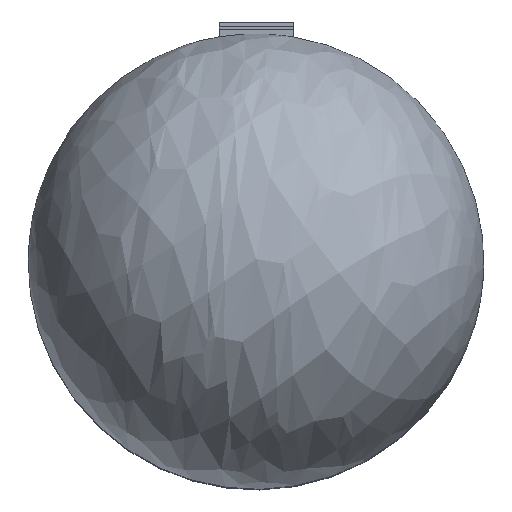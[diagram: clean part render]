
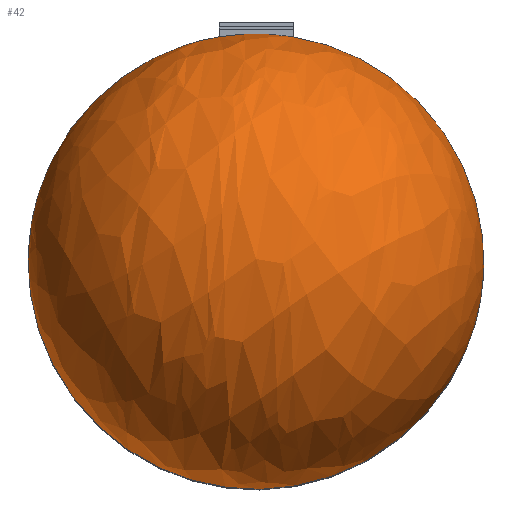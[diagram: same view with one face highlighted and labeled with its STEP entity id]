
A CAD part, top view. The second image highlights one B-rep face of the part: STEP entity #42.
In plain terms, the highlighted free-form (B-spline) face has degree [2, 2] with [5, 5] control points.
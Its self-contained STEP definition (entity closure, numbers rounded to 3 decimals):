
#42=ADVANCED_FACE('',(#70),#510,.T.);
#70=FACE_OUTER_BOUND('',#98,.T.);
#98=EDGE_LOOP('',(#233,#234,#235,#236));
#233=ORIENTED_EDGE('',*,*,#354,.T.);
#234=ORIENTED_EDGE('',*,*,#342,.F.);
#235=ORIENTED_EDGE('',*,*,#274,.F.);
#236=ORIENTED_EDGE('',*,*,#338,.F.);
#274=EDGE_CURVE('',#458,#457,#391,.T.);
#338=EDGE_CURVE('',#507,#458,#375,.T.);
#342=EDGE_CURVE('',#457,#508,#376,.T.);
#354=EDGE_CURVE('',#507,#508,#386,.T.);
#375=(
BOUNDED_CURVE()
B_SPLINE_CURVE(2,(#1070,#1071,#1072),.UNSPECIFIED.,.F.,.F.)
B_SPLINE_CURVE_WITH_KNOTS((3,3),(-120.554,-25.112),
 .UNSPECIFIED.)
CURVE()
GEOMETRIC_REPRESENTATION_ITEM()
RATIONAL_B_SPLINE_CURVE((1.,0.813,1.))
REPRESENTATION_ITEM('')
);
#376=(
BOUNDED_CURVE()
B_SPLINE_CURVE(2,(#1091,#1092,#1093),.UNSPECIFIED.,.F.,.F.)
B_SPLINE_CURVE_WITH_KNOTS((3,3),(0.,120.554),.UNSPECIFIED.)
CURVE()
GEOMETRIC_REPRESENTATION_ITEM()
RATIONAL_B_SPLINE_CURVE((1.,0.707,1.))
REPRESENTATION_ITEM('')
);
#386=(
BOUNDED_CURVE()
B_SPLINE_CURVE(2,(#1172,#1173,#1174,#1175,#1176),.UNSPECIFIED.,.F.,.F.)
B_SPLINE_CURVE_WITH_KNOTS((3,2,3),(-120.554,0.,120.554),
 .UNSPECIFIED.)
CURVE()
GEOMETRIC_REPRESENTATION_ITEM()
RATIONAL_B_SPLINE_CURVE((1.,0.707,1.,0.707,1.))
REPRESENTATION_ITEM('')
);
#391=B_SPLINE_CURVE_WITH_KNOTS('',3,(#839,#840,#841,#842,#843,#844,#845,
#846,#847,#848,#849,#850,#851,#852,#853,#854),.UNSPECIFIED.,.F.,.F.,(4,
2,2,2,2,2,2,4),(0.,6.28,12.559,18.839,21.978,
23.548,24.333,25.117),.UNSPECIFIED.);
#457=VERTEX_POINT('',#745);
#458=VERTEX_POINT('',#746);
#507=VERTEX_POINT('',#795);
#508=VERTEX_POINT('',#796);
#510=(
BOUNDED_SURFACE()
B_SPLINE_SURFACE(2,2,((#660,#661,#662,#663,#664),(#665,#666,#667,#668,#669),
(#670,#671,#672,#673,#674),(#675,#676,#677,#678,#679),(#680,#681,#682,#683,
#684)),.UNSPECIFIED.,.F.,.F.,.F.)
B_SPLINE_SURFACE_WITH_KNOTS((3,2,3),(3,2,3),(0.,120.554,241.108),
(-120.554,0.,120.554),.UNSPECIFIED.)
GEOMETRIC_REPRESENTATION_ITEM()
RATIONAL_B_SPLINE_SURFACE(((1.,0.707,1.,0.707,1.),
(0.707,0.5,0.707,0.5,0.707),(1.,0.707,
1.,0.707,1.),(0.707,0.5,0.707,0.5,0.707),
(1.,0.707,1.,0.707,1.)))
REPRESENTATION_ITEM('')
SURFACE()
);
#660=CARTESIAN_POINT('',(-75.704,10.542,78.084));
#661=CARTESIAN_POINT('',(-63.14,86.25,77.384));
#662=CARTESIAN_POINT('',(12.572,73.686,77.5));
#663=CARTESIAN_POINT('',(88.283,61.122,77.616));
#664=CARTESIAN_POINT('',(75.719,-14.586,78.316));
#665=CARTESIAN_POINT('',(-75.704,10.542,78.084));
#666=CARTESIAN_POINT('',(-63.14,86.96,154.128));
#667=CARTESIAN_POINT('',(12.572,74.396,154.244));
#668=CARTESIAN_POINT('',(88.283,61.832,154.36));
#669=CARTESIAN_POINT('',(75.719,-14.586,78.316));
#670=CARTESIAN_POINT('',(-75.704,10.542,78.084));
#671=CARTESIAN_POINT('',(-75.704,11.251,154.827));
#672=CARTESIAN_POINT('',(0.007,-1.313,154.944));
#673=CARTESIAN_POINT('',(75.719,-13.876,155.06));
#674=CARTESIAN_POINT('',(75.719,-14.586,78.316));
#675=CARTESIAN_POINT('',(-75.704,10.542,78.084));
#676=CARTESIAN_POINT('',(-88.268,-64.457,155.527));
#677=CARTESIAN_POINT('',(-12.557,-77.021,155.644));
#678=CARTESIAN_POINT('',(63.155,-89.585,155.76));
#679=CARTESIAN_POINT('',(75.719,-14.586,78.316));
#680=CARTESIAN_POINT('',(-75.704,10.542,78.084));
#681=CARTESIAN_POINT('',(-88.268,-65.167,78.784));
#682=CARTESIAN_POINT('',(-12.557,-77.73,78.9));
#683=CARTESIAN_POINT('',(63.155,-90.294,79.016));
#684=CARTESIAN_POINT('',(75.719,-14.586,78.316));
#745=CARTESIAN_POINT('',(12.572,73.686,77.5));
#746=CARTESIAN_POINT('',(-12.428,73.707,77.5));
#795=CARTESIAN_POINT('',(-75.704,10.542,78.084));
#796=CARTESIAN_POINT('',(75.719,-14.586,78.316));
#839=CARTESIAN_POINT('',(-12.428,73.707,77.5));
#840=CARTESIAN_POINT('',(-10.363,74.047,77.5));
#841=CARTESIAN_POINT('',(-8.285,74.301,77.5));
#842=CARTESIAN_POINT('',(-4.112,74.64,77.5));
#843=CARTESIAN_POINT('',(-2.02,74.723,77.5));
#844=CARTESIAN_POINT('',(2.166,74.72,77.5));
#845=CARTESIAN_POINT('',(4.258,74.633,77.5));
#846=CARTESIAN_POINT('',(7.386,74.373,77.5));
#847=CARTESIAN_POINT('',(8.427,74.266,77.5));
#848=CARTESIAN_POINT('',(9.985,74.072,77.5));
#849=CARTESIAN_POINT('',(10.503,74.002,77.5));
#850=CARTESIAN_POINT('',(11.28,73.89,77.5));
#851=CARTESIAN_POINT('',(11.539,73.851,77.5));
#852=CARTESIAN_POINT('',(12.055,73.771,77.5));
#853=CARTESIAN_POINT('',(12.314,73.729,77.5));
#854=CARTESIAN_POINT('',(12.572,73.686,77.5));
#1070=CARTESIAN_POINT('',(-75.704,10.542,78.084));
#1071=CARTESIAN_POINT('',(-66.7,64.796,77.582));
#1072=CARTESIAN_POINT('',(-12.428,73.707,77.5));
#1091=CARTESIAN_POINT('',(12.572,73.686,77.5));
#1092=CARTESIAN_POINT('',(88.283,61.122,77.616));
#1093=CARTESIAN_POINT('',(75.719,-14.586,78.316));
#1172=CARTESIAN_POINT('',(-75.704,10.542,78.084));
#1173=CARTESIAN_POINT('',(-88.268,-65.167,78.784));
#1174=CARTESIAN_POINT('',(-12.557,-77.73,78.9));
#1175=CARTESIAN_POINT('',(63.155,-90.294,79.016));
#1176=CARTESIAN_POINT('',(75.719,-14.586,78.316));
